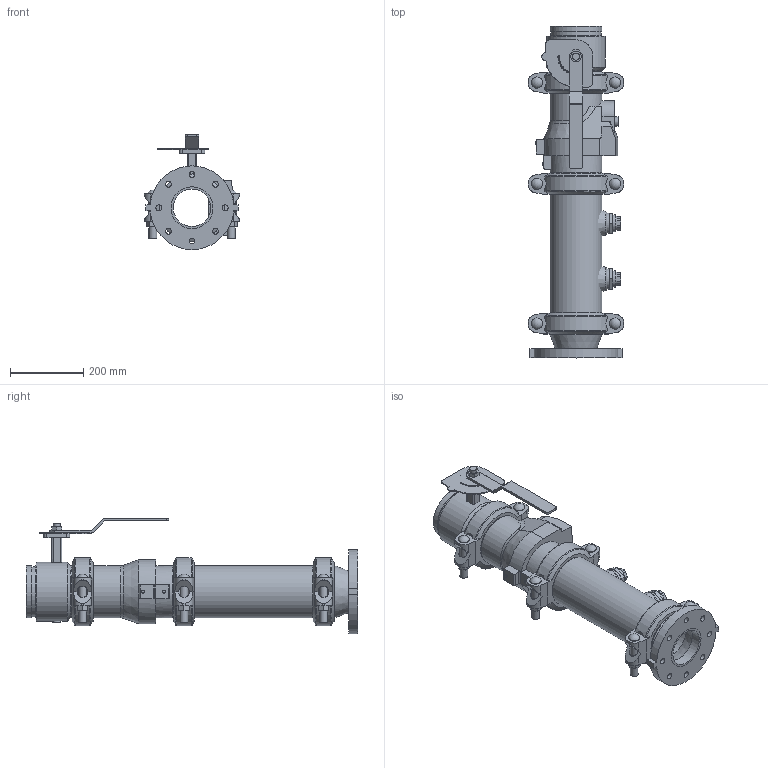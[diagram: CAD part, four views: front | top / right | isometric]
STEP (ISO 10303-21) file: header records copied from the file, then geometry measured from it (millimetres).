
FILE_DESCRIPTION(/* description */ ('VIC DVI PUMP DROP VERT S/390 (OGSxFLG)','CAx-IF Rec.Pracs.---Representation and Presentation of Product Manufacturing Information (PMI)---4.0---2014-10-13'),/* implementation_level */ '2;1');
FILE_NAME(/* name */ 'C:\Users\Vjadhav\AppData\Roaming\Autodesk\ApplicationPlugins\Back Up\Victaulic_IPS_Vertical DVI_PN10_Series 390 (OGSxFLG)\Victaulic_IPS_Vertical DVI_PN10_Series 390 (OGSxFLG)_05.0x04.0 (125x100).stp',/* time_stamp */ '2020-11-09T17:50:46+05:00',/* author */ ('Vjadhav'),/* organization */ ('Victaulic'),/* preprocessor_version */ 'ST-DEVELOPER v17.2',/* originating_system */ 'Autodesk Inventor 2019',/* authorisation */ '');
FILE_SCHEMA (('AP242_MANAGED_MODEL_BASED_3D_ENGINEERING_MIM_LF { 1 0 10303 442 1 1 4 }'));
Length unit declared in the file: inch
Products named in the file (8): 390-05.0x04.0; 741-04.0; 050-05.0x04.0; Pipe-05.0x04.0; 177N-05.0; 761-05.0; 716-05.0; 923-04.0x0.75
Assembly tree (10 placements, depth 2):
  390-05.0x04.0
    741-04.0
    050-05.0x04.0
    177N-05.0  x3
    Pipe-05.0x04.0
    761-05.0
    716-05.0
    923-04.0x0.75  x2
Bounding box: 259.33 x 905 x 314.71 mm (x, y, z)
Volume: 7924392.1 mm3; surface area: 1442027.5 mm2
Topology: 10 solids, 11 shells, 611 faces, 1635 edges, 1088 vertices
Faces by surface type: plane 358, cylinder 208, cone 20, torus 17, sphere 6, bspline 2
Full cylindrical faces by diameter (mm): 4.826 x10, 7.62 x2, 8.636 x4, 16.002 x8, 19.05 x2, 21.209 x6, 22.86 x1, 25.4 x1, 26.67 x2, 30.48 x6, 45.974 x4, 55.118 x1, 55.626 x2, 102.26 x1, 110.084 x1, 114.3 x3, 128.194 x3, 128.6 x3, 130.988 x1, 137.033 x7, 141.3 x19, 160.02 x1
Entity records: 12583 total; most frequent: CARTESIAN_POINT 2376, DIRECTION 2097, ORIENTED_EDGE 1926, EDGE_CURVE 963, AXIS2_PLACEMENT_3D 789, VERTEX_POINT 648, LINE 519, VECTOR 519
